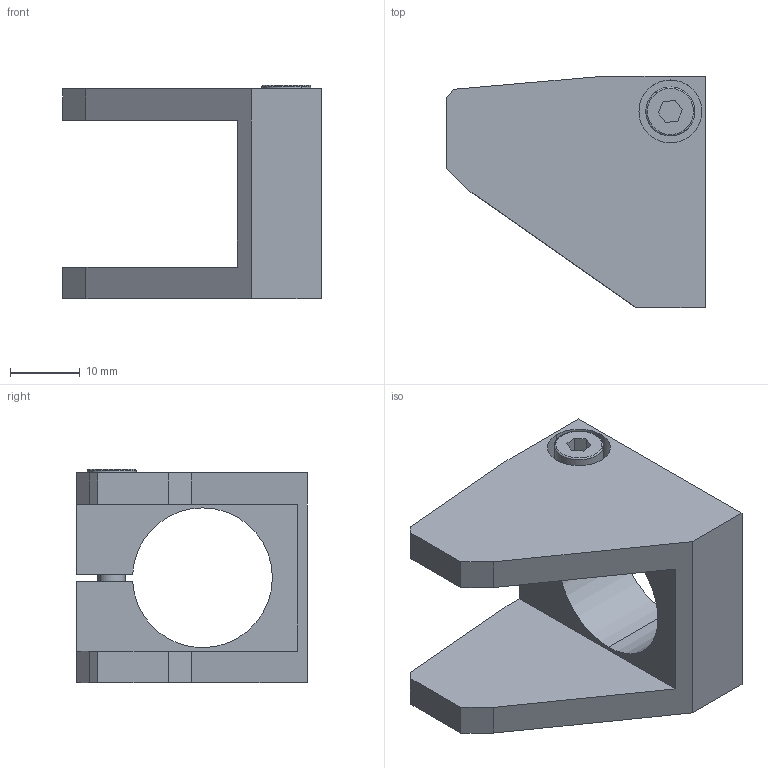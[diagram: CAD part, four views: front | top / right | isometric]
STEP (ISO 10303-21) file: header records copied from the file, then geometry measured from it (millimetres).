
FILE_DESCRIPTION (( 'STEP AP214' ), '1' );
FILE_NAME ('GP1-20.STEP', '2019-11-13T03:10:41', ( '微软用户' ), ( '微软中国' ), 'SwSTEP 2.0', 'SolidWorks 2016', '' );
FILE_SCHEMA (( 'AUTOMOTIVE_DESIGN' ));
Length unit declared in the file: millimetre
Products named in the file (1): GP1-20
Bounding box: 37 x 33 x 30.5 mm (x, y, z)
Volume: 12724.1 mm3; surface area: 7138.3 mm2
Topology: 3 solids, 3 shells, 246 faces, 707 edges, 468 vertices
Faces by surface type: plane 223, cylinder 19, cone 2, bspline 2
Entity records: 10972 total; most frequent: CARTESIAN_POINT 1546, DIRECTION 1419, ORIENTED_EDGE 1414, EDGE_CURVE 707, LINE 477, VECTOR 477, AXIS2_PLACEMENT_3D 471, VERTEX_POINT 468
